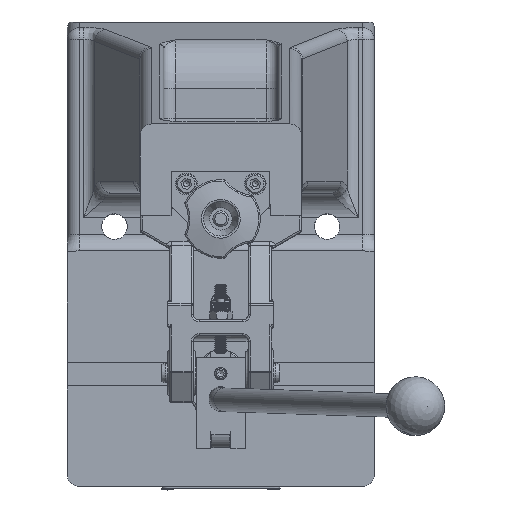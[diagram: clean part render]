
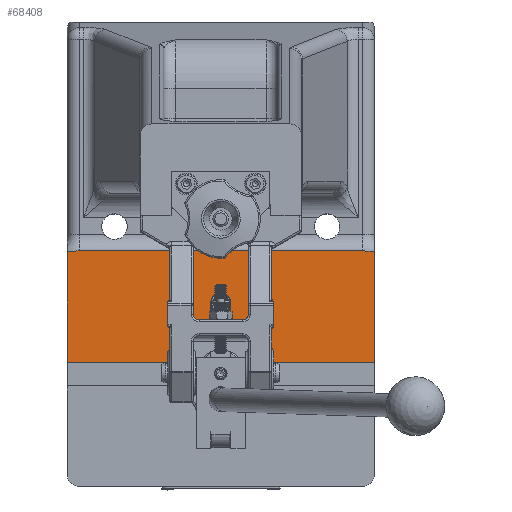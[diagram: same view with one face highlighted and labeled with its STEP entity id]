
A CAD part, top view. The second image highlights one B-rep face of the part: STEP entity #68408.
In plain terms, the highlighted planar face has unit normal (0, 0, 1).
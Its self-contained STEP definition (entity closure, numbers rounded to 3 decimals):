
#1515=B_SPLINE_CURVE_WITH_KNOTS('',3,(#90122,#90123,#90124,#90125,#90126,
#90127),.UNSPECIFIED.,.F.,.F.,(4,2,4),(0.,0.307,0.563),
 .UNSPECIFIED.);
#1516=B_SPLINE_CURVE_WITH_KNOTS('',3,(#90130,#90131,#90132,#90133,#90134,
#90135),.UNSPECIFIED.,.F.,.F.,(4,2,4),(-0.563,-0.307,
0.),.UNSPECIFIED.);
#6455=FACE_OUTER_BOUND('',#10404,.T.);
#10404=EDGE_LOOP('',(#43385,#43386,#43387,#43388,#43389,#43390));
#14988=LINE('',#90091,#20716);
#14990=LINE('',#90095,#20718);
#14996=LINE('',#90120,#20724);
#14997=LINE('',#90129,#20725);
#20716=VECTOR('',#76526,156.);
#20718=VECTOR('',#76530,56.232);
#20724=VECTOR('',#76538,56.232);
#20725=VECTOR('',#76539,144.);
#26927=VERTEX_POINT('',#90088);
#26928=VERTEX_POINT('',#90090);
#26929=VERTEX_POINT('',#90094);
#26935=VERTEX_POINT('',#90119);
#26936=VERTEX_POINT('',#90121);
#26937=VERTEX_POINT('',#90128);
#33449=EDGE_CURVE('',#26928,#26927,#14988,.T.);
#33451=EDGE_CURVE('',#26928,#26929,#14990,.T.);
#33458=EDGE_CURVE('',#26935,#26927,#14996,.T.);
#33459=EDGE_CURVE('',#26936,#26935,#1515,.T.);
#33460=EDGE_CURVE('',#26937,#26936,#14997,.T.);
#33461=EDGE_CURVE('',#26929,#26937,#1516,.T.);
#43385=ORIENTED_EDGE('',*,*,#33449,.T.);
#43386=ORIENTED_EDGE('',*,*,#33458,.F.);
#43387=ORIENTED_EDGE('',*,*,#33459,.F.);
#43388=ORIENTED_EDGE('',*,*,#33460,.F.);
#43389=ORIENTED_EDGE('',*,*,#33461,.F.);
#43390=ORIENTED_EDGE('',*,*,#33451,.F.);
#62584=PLANE('',#72428);
#68408=ADVANCED_FACE('',(#6455),#62584,.T.);
#72428=AXIS2_PLACEMENT_3D('',#90118,#76536,#76537);
#76526=DIRECTION('',(0.707,0.707,0.));
#76530=DIRECTION('',(-0.707,0.707,0.));
#76536=DIRECTION('center_axis',(0.,0.,
1.));
#76537=DIRECTION('ref_axis',(1.,0.,0.));
#76538=DIRECTION('',(0.707,-0.707,0.));
#76539=DIRECTION('',(0.707,0.707,0.));
#90088=CARTESIAN_POINT('',(124.451,-124.451,58.5));
#90090=CARTESIAN_POINT('',(14.142,-234.759,58.5));
#90091=CARTESIAN_POINT('',(69.845,-179.057,58.5));
#90094=CARTESIAN_POINT('',(-25.62,-194.998,58.5));
#90095=CARTESIAN_POINT('',(18.083,-238.701,58.5));
#90118=CARTESIAN_POINT('Origin',(72.619,-180.734,58.5));
#90119=CARTESIAN_POINT('',(84.689,-84.689,58.5));
#90120=CARTESIAN_POINT('',(63.338,-63.338,58.5));
#90121=CARTESIAN_POINT('',(80.109,-88.595,58.5));
#90122=CARTESIAN_POINT('Ctrl Pts',(80.109,-88.595,58.5));
#90123=CARTESIAN_POINT('Ctrl Pts',(80.832,-87.872,58.5));
#90124=CARTESIAN_POINT('Ctrl Pts',(81.672,-87.127,58.5));
#90125=CARTESIAN_POINT('Ctrl Pts',(83.264,-85.819,58.5));
#90126=CARTESIAN_POINT('Ctrl Pts',(84.004,-85.241,58.5));
#90127=CARTESIAN_POINT('Ctrl Pts',(84.689,-84.689,58.5));
#90128=CARTESIAN_POINT('',(-21.714,-190.418,58.5));
#90129=CARTESIAN_POINT('',(1.62,-167.083,58.5));
#90130=CARTESIAN_POINT('Ctrl Pts',(-25.62,-194.998,
58.5));
#90131=CARTESIAN_POINT('Ctrl Pts',(-25.067,-194.313,
58.5));
#90132=CARTESIAN_POINT('Ctrl Pts',(-24.489,-193.573,
58.5));
#90133=CARTESIAN_POINT('Ctrl Pts',(-23.181,-191.98,
58.5));
#90134=CARTESIAN_POINT('Ctrl Pts',(-22.437,-191.141,
58.5));
#90135=CARTESIAN_POINT('Ctrl Pts',(-21.714,-190.418,58.5));
